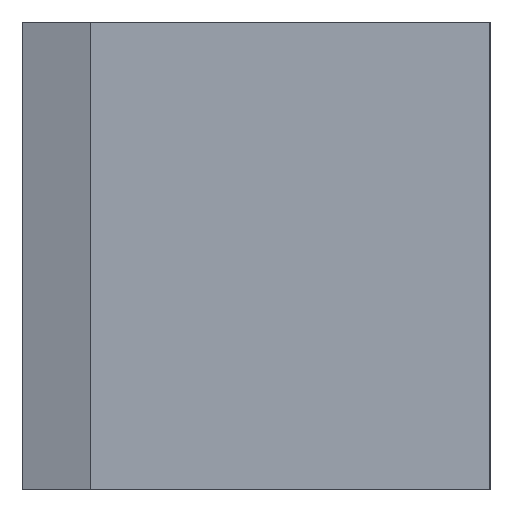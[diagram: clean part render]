
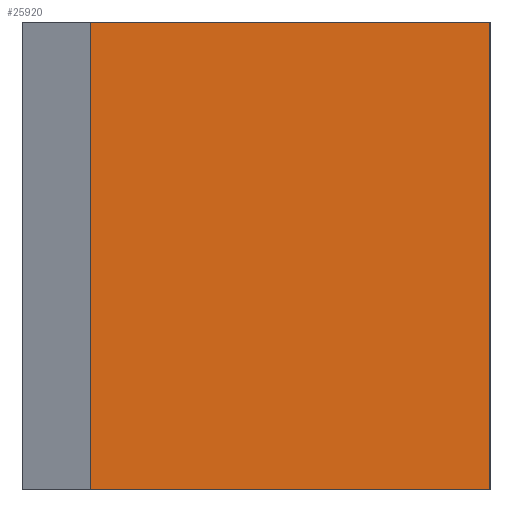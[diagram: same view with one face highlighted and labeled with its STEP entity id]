
A CAD part, left-side view. The second image highlights one B-rep face of the part: STEP entity #25920.
In plain terms, the highlighted planar face has unit normal (-1, 0, 0).
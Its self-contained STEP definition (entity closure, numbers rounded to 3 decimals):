
#72=LINE('',#35189,#3914);
#73=LINE('',#35191,#3915);
#74=LINE('',#35193,#3916);
#75=LINE('',#35194,#3917);
#3914=VECTOR('',#28680,15.);
#3915=VECTOR('',#28681,12.8);
#3916=VECTOR('',#28682,15.);
#3917=VECTOR('',#28683,12.8);
#7798=FACE_OUTER_BOUND('',#9104,.T.);
#9104=EDGE_LOOP('',(#16944,#16945,#16946,#16947));
#10452=VERTEX_POINT('',#35187);
#10453=VERTEX_POINT('',#35188);
#10454=VERTEX_POINT('',#35190);
#10455=VERTEX_POINT('',#35192);
#13046=EDGE_CURVE('',#10452,#10453,#72,.T.);
#13047=EDGE_CURVE('',#10454,#10453,#73,.T.);
#13048=EDGE_CURVE('',#10455,#10454,#74,.T.);
#13049=EDGE_CURVE('',#10452,#10455,#75,.T.);
#16944=ORIENTED_EDGE('',*,*,#13046,.T.);
#16945=ORIENTED_EDGE('',*,*,#13047,.F.);
#16946=ORIENTED_EDGE('',*,*,#13048,.F.);
#16947=ORIENTED_EDGE('',*,*,#13049,.F.);
#24621=PLANE('',#27270);
#25920=ADVANCED_FACE('',(#7798),#24621,.F.);
#27270=AXIS2_PLACEMENT_3D('',#35186,#28678,#28679);
#28678=DIRECTION('center_axis',(1.,0.,0.));
#28679=DIRECTION('ref_axis',(0.,0.,-1.));
#28680=DIRECTION('',(0.,0.,-1.));
#28681=DIRECTION('',(0.,1.,0.));
#28682=DIRECTION('',(0.,0.,-1.));
#28683=DIRECTION('',(0.,-1.,0.));
#35186=CARTESIAN_POINT('Origin',(0.,0.,0.));
#35187=CARTESIAN_POINT('',(0.,12.8,7.5));
#35188=CARTESIAN_POINT('',(0.,12.8,-7.5));
#35189=CARTESIAN_POINT('',(0.,12.8,7.5));
#35190=CARTESIAN_POINT('',(0.,0.,-7.5));
#35191=CARTESIAN_POINT('',(0.,0.,-7.5));
#35192=CARTESIAN_POINT('',(0.,0.,7.5));
#35193=CARTESIAN_POINT('',(0.,0.,7.5));
#35194=CARTESIAN_POINT('',(0.,12.8,7.5));
